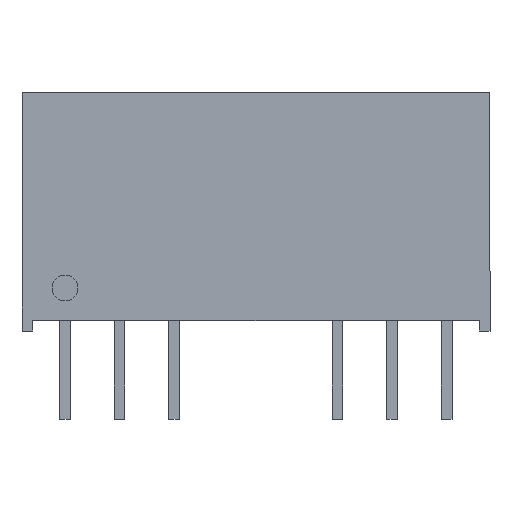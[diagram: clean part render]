
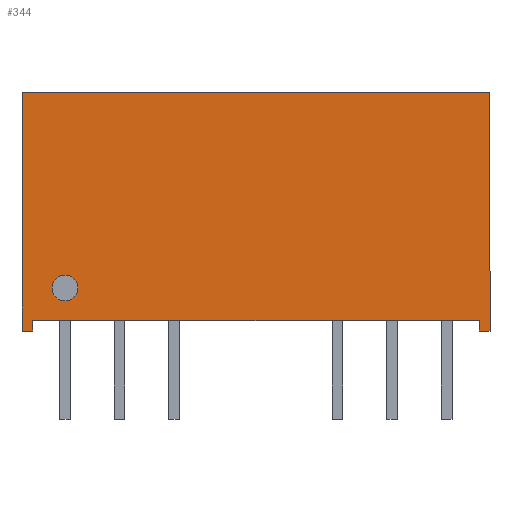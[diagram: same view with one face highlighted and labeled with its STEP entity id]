
A CAD part, top view. The second image highlights one B-rep face of the part: STEP entity #344.
In plain terms, the highlighted planar face has unit normal (0, 0, 1).
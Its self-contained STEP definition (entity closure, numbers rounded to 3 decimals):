
#56 = CARTESIAN_POINT ( 'NONE',  ( 10.9, -0.5, 4.6 ) ) ;
#66 = EDGE_CURVE ( 'NONE', #1065, #1140, #622, .T. ) ;
#88 = EDGE_CURVE ( 'NONE', #1158, #189, #243, .T. ) ;
#108 = DIRECTION ( 'NONE',  ( 0., 1., 0. ) ) ;
#110 = VECTOR ( 'NONE', #332, 1000. ) ;
#120 = ORIENTED_EDGE ( 'NONE', *, *, #1112, .F. ) ;
#122 = VERTEX_POINT ( 'NONE', #548 ) ;
#139 = CARTESIAN_POINT ( 'NONE',  ( -10.9, -0.5, 4.6 ) ) ;
#151 = DIRECTION ( 'NONE',  ( 0., -1., 0. ) ) ;
#154 = DIRECTION ( 'NONE',  ( 1., 0., 0. ) ) ;
#187 = CARTESIAN_POINT ( 'NONE',  ( -10.4, 0., 4.6 ) ) ;
#189 = VERTEX_POINT ( 'NONE', #237 ) ;
#206 = DIRECTION ( 'NONE',  ( 0., 0., 1. ) ) ;
#207 = EDGE_LOOP ( 'NONE', ( #1101, #840, #1089, #568, #380, #384, #1204, #370 ) ) ;
#208 = LINE ( 'NONE', #187, #867 ) ;
#209 = DIRECTION ( 'NONE',  ( 0., 0., -1. ) ) ;
#237 = CARTESIAN_POINT ( 'NONE',  ( 10.9, 10.6, 4.6 ) ) ;
#240 = LINE ( 'NONE', #336, #110 ) ;
#243 = LINE ( 'NONE', #56, #747 ) ;
#278 = CARTESIAN_POINT ( 'NONE',  ( -10.9, -0.5, 4.6 ) ) ;
#286 = VERTEX_POINT ( 'NONE', #952 ) ;
#332 = DIRECTION ( 'NONE',  ( 0., -1., 0. ) ) ;
#336 = CARTESIAN_POINT ( 'NONE',  ( 10.4, 0., 4.6 ) ) ;
#338 = VECTOR ( 'NONE', #677, 1000. ) ;
#344 = ADVANCED_FACE ( 'NONE', ( #902, #993 ), #1187, .F. ) ;
#353 = LINE ( 'NONE', #1044, #931 ) ;
#370 = ORIENTED_EDGE ( 'NONE', *, *, #1041, .T. ) ;
#380 = ORIENTED_EDGE ( 'NONE', *, *, #66, .T. ) ;
#384 = ORIENTED_EDGE ( 'NONE', *, *, #915, .T. ) ;
#385 = CARTESIAN_POINT ( 'NONE',  ( 10.9, 10.6, 4.6 ) ) ;
#391 = CARTESIAN_POINT ( 'NONE',  ( -10.4, -0.5, 4.6 ) ) ;
#404 = CARTESIAN_POINT ( 'NONE',  ( -10.9, 10.6, 4.6 ) ) ;
#436 = DIRECTION ( 'NONE',  ( 0., 1., 0. ) ) ;
#491 = LINE ( 'NONE', #385, #965 ) ;
#548 = CARTESIAN_POINT ( 'NONE',  ( -10.4, 0., 4.6 ) ) ;
#567 = CARTESIAN_POINT ( 'NONE',  ( -10.4, 0., 4.6 ) ) ;
#568 = ORIENTED_EDGE ( 'NONE', *, *, #1105, .T. ) ;
#579 = AXIS2_PLACEMENT_3D ( 'NONE', #1077, #206, #883 ) ;
#613 = EDGE_CURVE ( 'NONE', #1002, #1158, #774, .T. ) ;
#622 = LINE ( 'NONE', #139, #817 ) ;
#650 = EDGE_CURVE ( 'NONE', #1092, #122, #208, .T. ) ;
#668 = DIRECTION ( 'NONE',  ( -1., 0., 0. ) ) ;
#677 = DIRECTION ( 'NONE',  ( 1., 0., 0. ) ) ;
#700 = VERTEX_POINT ( 'NONE', #1090 ) ;
#722 = AXIS2_PLACEMENT_3D ( 'NONE', #1086, #209, #1075 ) ;
#747 = VECTOR ( 'NONE', #436, 1000. ) ;
#752 = CARTESIAN_POINT ( 'NONE',  ( 10.4, -0.5, 4.6 ) ) ;
#761 = VECTOR ( 'NONE', #878, 1000. ) ;
#774 = LINE ( 'NONE', #1161, #338 ) ;
#784 = LINE ( 'NONE', #567, #761 ) ;
#817 = VECTOR ( 'NONE', #151, 1000. ) ;
#840 = ORIENTED_EDGE ( 'NONE', *, *, #613, .T. ) ;
#845 = EDGE_CURVE ( 'NONE', #286, #1002, #240, .T. ) ;
#867 = VECTOR ( 'NONE', #108, 1000. ) ;
#878 = DIRECTION ( 'NONE',  ( 1., 0., 0. ) ) ;
#883 = DIRECTION ( 'NONE',  ( 1., 0., 0. ) ) ;
#902 = FACE_BOUND ( 'NONE', #1125, .T. ) ;
#915 = EDGE_CURVE ( 'NONE', #1140, #1092, #353, .T. ) ;
#931 = VECTOR ( 'NONE', #154, 1000. ) ;
#952 = CARTESIAN_POINT ( 'NONE',  ( 10.4, 0., 4.6 ) ) ;
#965 = VECTOR ( 'NONE', #668, 1000. ) ;
#993 = FACE_OUTER_BOUND ( 'NONE', #207, .T. ) ;
#1002 = VERTEX_POINT ( 'NONE', #752 ) ;
#1041 = EDGE_CURVE ( 'NONE', #122, #286, #784, .T. ) ;
#1044 = CARTESIAN_POINT ( 'NONE',  ( -10.4, -0.5, 4.6 ) ) ;
#1065 = VERTEX_POINT ( 'NONE', #404 ) ;
#1075 = DIRECTION ( 'NONE',  ( -1., 0., 0. ) ) ;
#1077 = CARTESIAN_POINT ( 'NONE',  ( -8.9, 1.5, 4.6 ) ) ;
#1086 = CARTESIAN_POINT ( 'NONE',  ( 10.4, 10.6, 4.6 ) ) ;
#1089 = ORIENTED_EDGE ( 'NONE', *, *, #88, .T. ) ;
#1090 = CARTESIAN_POINT ( 'NONE',  ( -8.3, 1.5, 4.6 ) ) ;
#1092 = VERTEX_POINT ( 'NONE', #391 ) ;
#1101 = ORIENTED_EDGE ( 'NONE', *, *, #845, .T. ) ;
#1105 = EDGE_CURVE ( 'NONE', #189, #1065, #491, .T. ) ;
#1112 = EDGE_CURVE ( 'NONE', #700, #700, #1129, .T. ) ;
#1125 = EDGE_LOOP ( 'NONE', ( #120 ) ) ;
#1129 = CIRCLE ( 'NONE', #579, 0.6 ) ;
#1140 = VERTEX_POINT ( 'NONE', #278 ) ;
#1158 = VERTEX_POINT ( 'NONE', #1164 ) ;
#1161 = CARTESIAN_POINT ( 'NONE',  ( 10.4, -0.5, 4.6 ) ) ;
#1164 = CARTESIAN_POINT ( 'NONE',  ( 10.9, -0.5, 4.6 ) ) ;
#1187 = PLANE ( 'NONE',  #722 ) ;
#1204 = ORIENTED_EDGE ( 'NONE', *, *, #650, .T. ) ;
